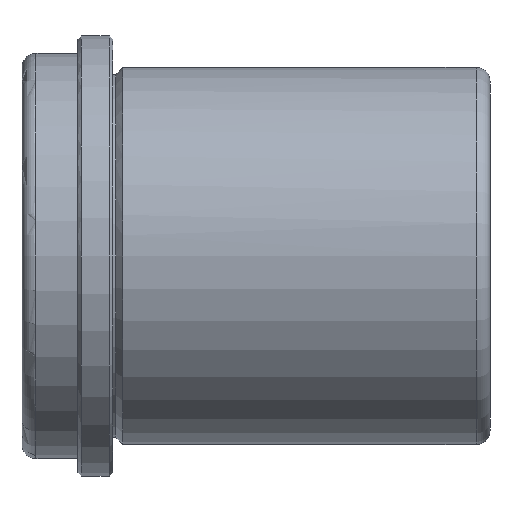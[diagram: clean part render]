
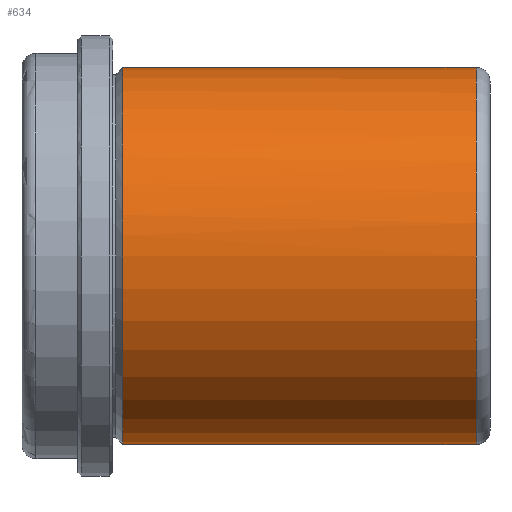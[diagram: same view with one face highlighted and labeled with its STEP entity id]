
A CAD part, front view. The second image highlights one B-rep face of the part: STEP entity #634.
In plain terms, the highlighted cylindrical face has radius 27 mm (diameter 54 mm), a partial arc.
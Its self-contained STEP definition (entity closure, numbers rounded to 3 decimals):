
#413=CARTESIAN_POINT('Line Origine',(54.,0.,27.)) ;
#417=CARTESIAN_POINT('Vertex',(52.,0.,27.)) ;
#419=CARTESIAN_POINT('Vertex',(1.414,0.,27.)) ;
#433=CARTESIAN_POINT('Vertex',(52.,0.,-27.)) ;
#436=CARTESIAN_POINT('Line Origine',(54.,0.,-27.)) ;
#440=CARTESIAN_POINT('Vertex',(1.414,0.,-27.)) ;
#594=CARTESIAN_POINT('Axis2P3D Location',(54.,0.,0.)) ;
#599=CARTESIAN_POINT('Axis2P3D Location',(52.,0.,0.)) ;
#603=CARTESIAN_POINT('Vertex',(52.,-27.,0.)) ;
#606=CARTESIAN_POINT('Axis2P3D Location',(52.,0.,0.)) ;
#612=CARTESIAN_POINT('Control Point',(1.414,0.,27.)) ;
#613=CARTESIAN_POINT('Control Point',(1.414,-8.482,27.)) ;
#614=CARTESIAN_POINT('Control Point',(1.414,-16.973,23.679)) ;
#615=CARTESIAN_POINT('Control Point',(1.414,-23.679,16.973)) ;
#616=CARTESIAN_POINT('Control Point',(1.414,-27.,8.482)) ;
#617=CARTESIAN_POINT('Control Point',(1.414,-27.,0.)) ;
#618=CARTESIAN_POINT('Vertex',(1.414,-27.,0.)) ;
#621=CARTESIAN_POINT('Axis2P3D Location',(1.414,0.,0.)) ;
#414=DIRECTION('Vector Direction',(-1.,0.,0.)) ;
#437=DIRECTION('Vector Direction',(-1.,0.,0.)) ;
#595=DIRECTION('Axis2P3D Direction',(-1.,-0.,-0.)) ;
#596=DIRECTION('Axis2P3D XDirection',(0.,0.,-1.)) ;
#600=DIRECTION('Axis2P3D Direction',(-1.,-0.,-0.)) ;
#607=DIRECTION('Axis2P3D Direction',(-1.,-0.,-0.)) ;
#622=DIRECTION('Axis2P3D Direction',(-1.,-0.,-0.)) ;
#597=AXIS2_PLACEMENT_3D('Cylinder Axis2P3D',#594,#595,#596) ;
#601=AXIS2_PLACEMENT_3D('Circle Axis2P3D',#599,#600,$) ;
#608=AXIS2_PLACEMENT_3D('Circle Axis2P3D',#606,#607,$) ;
#623=AXIS2_PLACEMENT_3D('Circle Axis2P3D',#621,#622,$) ;
#627=ORIENTED_EDGE('',*,*,#442,.T.) ;
#628=ORIENTED_EDGE('',*,*,#605,.F.) ;
#629=ORIENTED_EDGE('',*,*,#610,.F.) ;
#630=ORIENTED_EDGE('',*,*,#421,.T.) ;
#631=ORIENTED_EDGE('',*,*,#620,.T.) ;
#632=ORIENTED_EDGE('',*,*,#625,.T.) ;
#415=VECTOR('Line Direction',#414,1.) ;
#438=VECTOR('Line Direction',#437,1.) ;
#634=ADVANCED_FACE('CF 632 40 x 67',(#633),#598,.T.) ;
#611=B_SPLINE_CURVE_WITH_KNOTS('',5,(#612,#613,#614,#615,#616,#617),.UNSPECIFIED.,.F.,.U.,(6,6),(-21.206,21.206),.UNSPECIFIED.) ;
#602=CIRCLE('generated circle',#601,27.) ;
#609=CIRCLE('generated circle',#608,27.) ;
#624=CIRCLE('generated circle',#623,27.) ;
#598=CYLINDRICAL_SURFACE('generated cylinder',#597,27.) ;
#421=EDGE_CURVE('',#418,#420,#416,.T.) ;
#442=EDGE_CURVE('',#441,#434,#439,.F.) ;
#605=EDGE_CURVE('',#604,#434,#602,.F.) ;
#610=EDGE_CURVE('',#418,#604,#609,.F.) ;
#620=EDGE_CURVE('',#420,#619,#611,.T.) ;
#625=EDGE_CURVE('',#619,#441,#624,.F.) ;
#626=EDGE_LOOP('',(#627,#628,#629,#630,#631,#632)) ;
#633=FACE_OUTER_BOUND('',#626,.T.) ;
#416=LINE('Line',#413,#415) ;
#439=LINE('Line',#436,#438) ;
#418=VERTEX_POINT('',#417) ;
#420=VERTEX_POINT('',#419) ;
#434=VERTEX_POINT('',#433) ;
#441=VERTEX_POINT('',#440) ;
#604=VERTEX_POINT('',#603) ;
#619=VERTEX_POINT('',#618) ;
